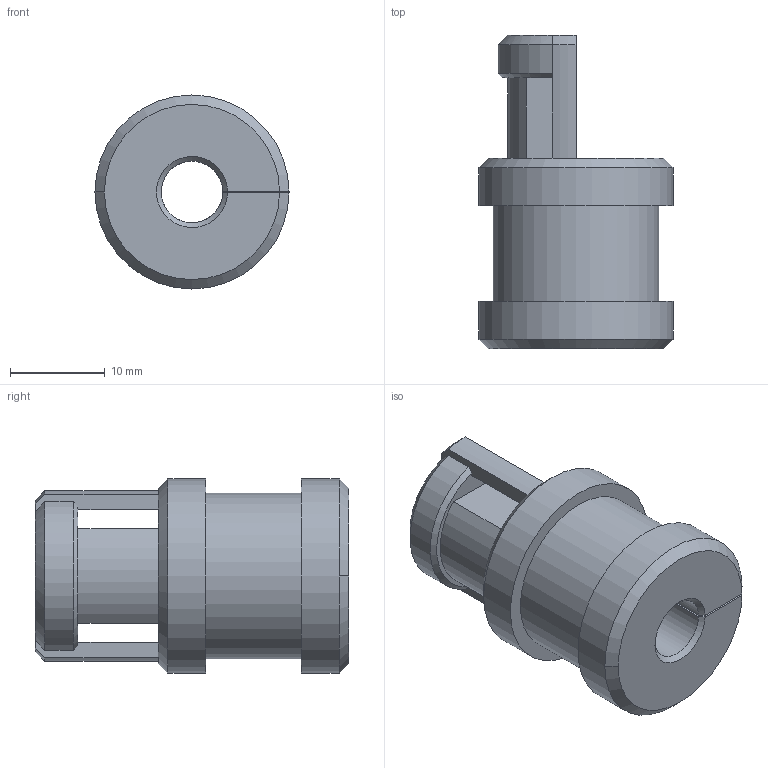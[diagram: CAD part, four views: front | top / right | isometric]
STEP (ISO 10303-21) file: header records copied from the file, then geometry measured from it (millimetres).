
FILE_DESCRIPTION (( 'STEP AP203' ), '1' );
FILE_NAME ('KDT-Z 05.STEP', '2022-10-08T05:14:49', ( '' ), ( '' ), 'SwSTEP 2.0', 'SolidWorks 2016', '' );
FILE_SCHEMA (( 'CONFIG_CONTROL_DESIGN' ));
Length unit declared in the file: millimetre
Products named in the file (1): KDT-Z 05
Bounding box: 20.5 x 33.1 x 20.5 mm (x, y, z)
Volume: 5872.4 mm3; surface area: 3240.8 mm2
Topology: 1 solids, 1 shells, 35 faces, 105 edges, 70 vertices
Faces by surface type: plane 16, cone 11, cylinder 8
Entity records: 1376 total; most frequent: CARTESIAN_POINT 354, ORIENTED_EDGE 210, DIRECTION 185, EDGE_CURVE 105, VERTEX_POINT 70, AXIS2_PLACEMENT_3D 63, LINE 59, VECTOR 59
